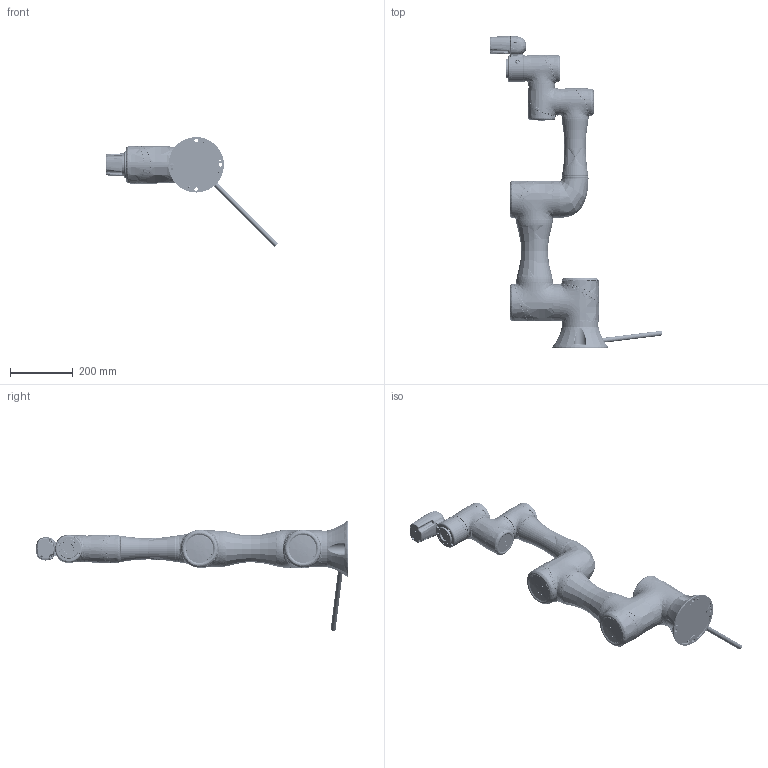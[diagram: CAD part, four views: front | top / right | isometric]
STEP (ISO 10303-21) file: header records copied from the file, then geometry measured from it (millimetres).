
FILE_DESCRIPTION((''),'2;1');
FILE_NAME('TM5-700_ASM','2017-01-06T',('Xavier.Kuo'),(''),'PRO/ENGINEER BY PARAMETRIC TECHNOLOGY CORPORATION, 2014320','PRO/ENGINEER BY PARAMETRIC TECHNOLOGY CORPORATION, 2014320','');
FILE_SCHEMA(('CONFIG_CONTROL_DESIGN'));
Products named in the file (11): TM5-BASE; 4H-J; ARM1; 04-JOINT-L; ARM2; 1H-J; IO_FX_SW0004; IO_CAMERA_F; 8A_05PFFS_SH7001_5; ASM0017_ASM; TM5-700_ASM
Assembly tree (14 placements, depth 3):
  TM5-700_ASM
    TM5-BASE
    4H-J  x3
    ARM1
    04-JOINT-L
    ARM2
    1H-J  x3
    ASM0017_ASM
      IO_FX_SW0004
      IO_CAMERA_F
      8A_05PFFS_SH7001_5
Bounding box: 550.75 x 996.6 x 350.55 mm (x, y, z)
Volume: 3577949.8 mm3; surface area: 1701429.4 mm2
Topology: 19 solids, 61 shells, 10889 faces, 29278 edges, 18573 vertices
Faces by surface type: cylinder 3053, plane 2466, bspline 2428, cone 2069, torus 612, extrusion 167, sphere 87, revolution 7
Entity records: 283403 total; most frequent: CARTESIAN_POINT 139375, ORIENTED_EDGE 31652, DIRECTION 28725, EDGE_CURVE 15826, AXIS2_PLACEMENT_3D 11502, VERTEX_POINT 10272, CIRCLE 6779, EDGE_LOOP 6452
